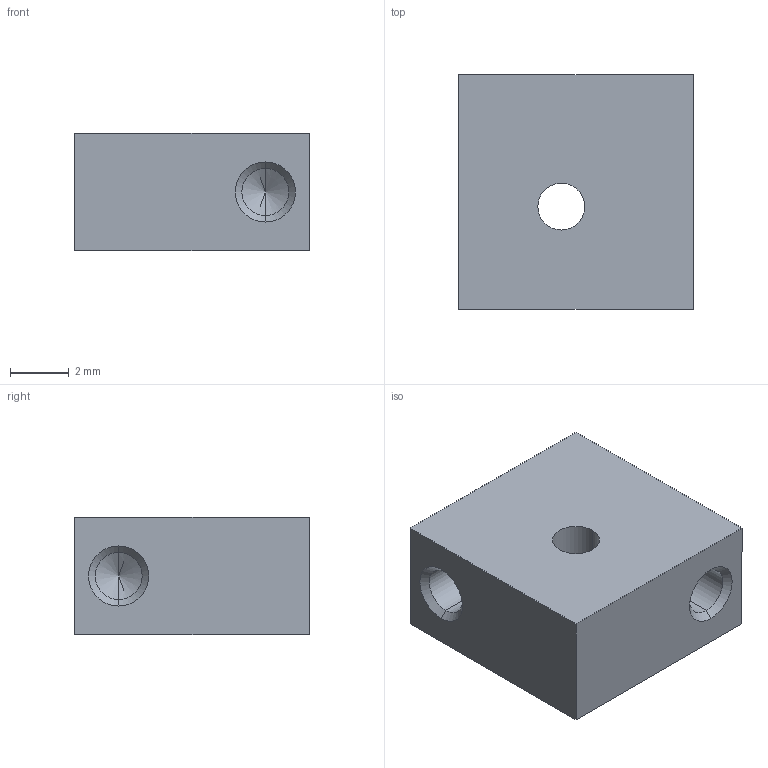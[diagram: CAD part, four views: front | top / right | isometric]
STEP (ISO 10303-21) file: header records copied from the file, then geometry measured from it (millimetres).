
FILE_DESCRIPTION (( 'STEP AP214' ), '1' );
FILE_NAME ('垫块5.STEP', '2026-09-29T01:16:26', ( '微软用户' ), ( '微软中国' ), 'SwSTEP 2.0', 'SolidWorks 2016', '' );
FILE_SCHEMA (( 'AUTOMOTIVE_DESIGN' ));
Length unit declared in the file: millimetre
Products named in the file (1): 菜輸5
Bounding box: 8 x 8 x 4 mm (x, y, z)
Volume: 226.8 mm3; surface area: 321.2 mm2
Topology: 1 solids, 1 shells, 22 faces, 50 edges, 28 vertices
Faces by surface type: cone 10, cylinder 6, plane 6
Entity records: 622 total; most frequent: DIRECTION 110, CARTESIAN_POINT 97, ORIENTED_EDGE 92, EDGE_CURVE 46, AXIS2_PLACEMENT_3D 41, VERTEX_POINT 28, VECTOR 28, LINE 28
